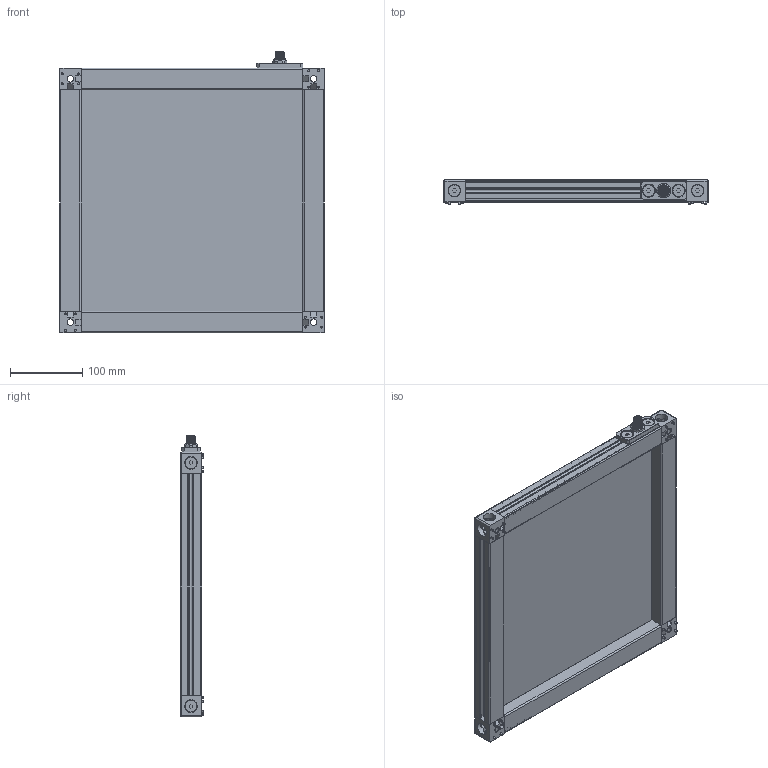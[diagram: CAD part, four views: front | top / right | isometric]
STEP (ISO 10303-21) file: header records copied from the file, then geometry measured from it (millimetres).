
FILE_DESCRIPTION (( 'STEP AP214' ), '1' );
FILE_NAME ('LLPX-300x300.STEP', '2016-04-22T19:10:10', ( '' ), ( '' ), 'SwSTEP 2.0', 'SolidWorks 2015', '' );
FILE_SCHEMA (( 'AUTOMOTIVE_DESIGN' ));
Length unit declared in the file: inch
Products named in the file (14): Input Assembly; M12 Nut; Screw holder; Screws -- short_FB08.0-015; Input Mounting Plate_A; M12_Male; EXT-00557-01-R1_306-DVR; PLATE-00557-03-R1_306x306; PLATE-00557-02-R1_306x306; PLATE-00557-01-R1SLDPRT_306x306; Screws_FB08.0-015; End Caps; EXT-00557-01-R1_306; LLPX-300x300
Assembly tree (27 placements, depth 3):
  LLPX-300x300
    EXT-00557-01-R1_306  x3
    End Caps  x4
    Screws_FB08.0-015  x8
    PLATE-00557-01-R1SLDPRT_306x306
    PLATE-00557-02-R1_306x306
    PLATE-00557-03-R1_306x306
    EXT-00557-01-R1_306-DVR
    Input Assembly
      M12_Male
      Input Mounting Plate_A
      Screws -- short_FB08.0-015  x2
      Screw holder  x2
      M12 Nut
Bounding box: 366 x 33 x 389.47 mm (x, y, z)
Volume: 1568324.2 mm3; surface area: 1104749.3 mm2
Topology: 26 solids, 27 shells, 1478 faces, 3970 edges, 2592 vertices
Faces by surface type: plane 652, cylinder 640, cone 84, bspline 70, sphere 28, torus 4
Entity records: 49626 total; most frequent: CARTESIAN_POINT 25706, ORIENTED_EDGE 4482, DIRECTION 4141, EDGE_CURVE 2241, VERTEX_POINT 1474, AXIS2_PLACEMENT_3D 1445, VECTOR 1251, LINE 1251
